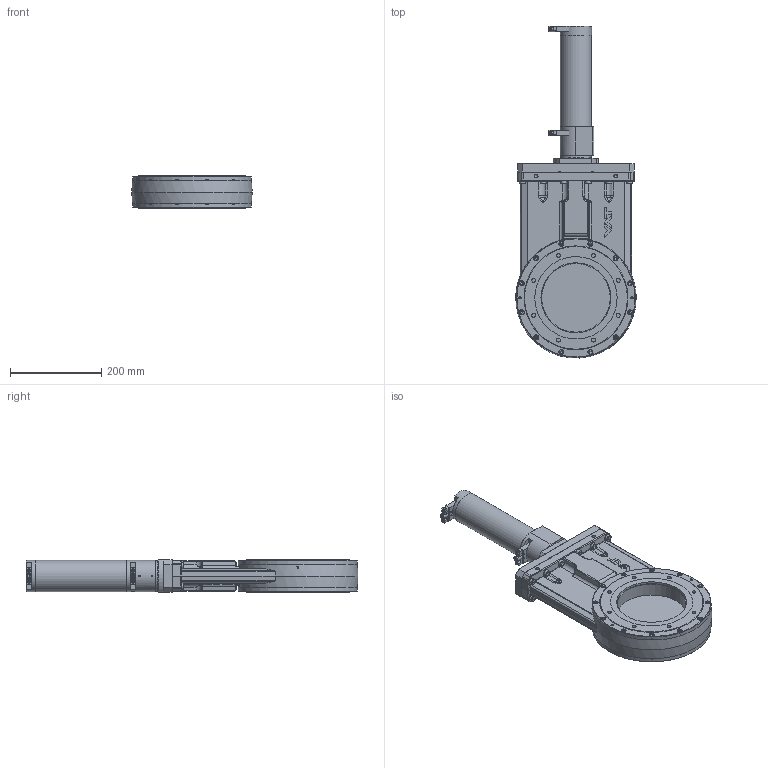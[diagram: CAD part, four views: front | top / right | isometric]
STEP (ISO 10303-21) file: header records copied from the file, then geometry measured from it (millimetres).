
FILE_DESCRIPTION(/* description */ (''),/* implementation_level */ '2;1');
FILE_NAME(/* name */ '1235880349_203.stp',/* time_stamp */ '2015-03-05T13:39:14+01:00',/* author */ (''),/* organization */ (''),/* preprocessor_version */ 'ST-DEVELOPER v11',/* originating_system */ 'SIEMENS PLM Software NX 7.5',/* authorisation */ '');
FILE_SCHEMA (('AP203_CONFIGURATION_CONTROLLED_3D_DESIGN_OF_MECHANICAL_PARTS_AND_ASSEMBLIES_MIM_LF'));
Products named in the file (37): 92838-01_3.2; N-6121-032.2; 98926-01.1; 80477-01.1; N-7100-005_2.1; 92838-01_4.2; 80478-01.1; N-6195-007.2; 93115-01.1; 87105-01.1; 73662-01.1; 406374_21646ID; 406370; N-6091-472.1; n-6091-494.1; 98935-01.1; 83699-01.1; 81413-01.1; 83414-01.1; 77379-01.1; N-6016-478.2; 406702; 224800.1; N-5100-269_1.1; 224840.1; 773593; 87090-R1.22_NX-ARRAGMNTbetaetigt Hub 5mm max (mit Feder); 98926-R1.1; 87090-R1.22_NX-ARRAGMNTunbetaetigt Hub 0mm (mit Feder); 773653_NX-ARRAGMNTMassbild; 78856-R1.3; 78855-r1.9_NX-ARRAGMNTMassbild, alle Innenteile unterdrueckt; 352337.1_MODEL; 420034; 420019; 406381_NX-ARRAGMNTMassbild (ohne Monovat-Kontur); 760763
Assembly tree (84 placements, depth 4):
  760763
    406381_NX-ARRAGMNTMassbild (ohne Monovat-Kontur)
      N-5100-269_1.1  x2
      224800.1  x24
      406702
      420019
        N-6091-472.1  x2
      420034
        406370
        N-6091-472.1  x2
      352337.1_MODEL
        406374_21646ID
    78855-r1.9_NX-ARRAGMNTMassbild, alle Innenteile unterdrueckt  x2
      N-6016-478.2
      78856-R1.3
        73662-01.1
      77379-01.1
    773653_NX-ARRAGMNTMassbild
      87090-R1.22_NX-ARRAGMNTunbetaetigt Hub 0mm (mit Feder)
        87105-01.1
        93115-01.1
        N-6195-007.2
        80478-01.1
        92838-01_4.2
        N-7100-005_2.1
        80477-01.1
      83414-01.1  x2
      98926-R1.1
        98926-01.1
        N-6121-032.2
      81413-01.1
      87090-R1.22_NX-ARRAGMNTbetaetigt Hub 5mm max (mit Feder)
        87105-01.1
        93115-01.1
        N-6195-007.2
        80478-01.1
        N-7100-005_2.1
        80477-01.1
        92838-01_3.2
      83699-01.1
    224840.1  x12
    773593
      98935-01.1
      n-6091-494.1  x2
Bounding box: 263.33 x 725.88 x 70.2 mm (x, y, z)
Volume: 3819397.4 mm3; surface area: 883260.8 mm2
Topology: 125 solids, 125 shells, 2358 faces, 5455 edges, 3450 vertices
Faces by surface type: plane 1095, cylinder 726, bspline 300, cone 186, torus 46, revolution 4, sphere 1
Full cylindrical faces by diameter (mm): 1.875 x2, 2.115 x8, 2.475 x6, 2.5 x6, 2.56 x2, 2.575 x2, 3 x7, 3.3 x5, 3.5 x10, 4.2 x3, 4.7 x4, 4.8 x1, 4.96 x24, 4.99 x4, 5 x54, 5.074 x4, 5.5 x2, 5.6 x2, 5.65 x2, 5.7 x2, 5.8 x4, 6 x73, 6.475 x2, 6.8 x22, 6.98 x2, 7 x24, 7.008 x1, 7.018 x1, 7.045 x2, 7.989 x2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
Entity records: 59878 total; most frequent: CARTESIAN_POINT 23027, DIRECTION 6187, ORIENTED_EDGE 6040, EDGE_CURVE 3020, AXIS2_PLACEMENT_3D 2513, EDGE_LOOP 2178, VERTEX_POINT 2161, ADVANCED_FACE 1475
